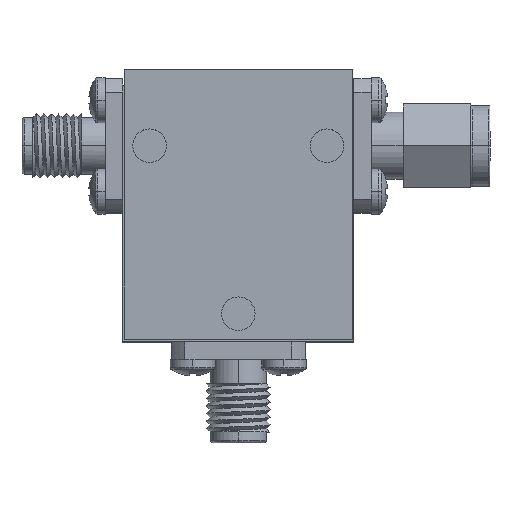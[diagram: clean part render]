
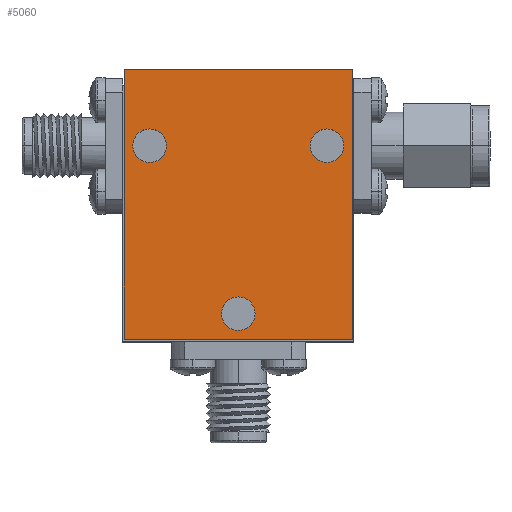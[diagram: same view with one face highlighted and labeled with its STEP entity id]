
A CAD part, top view. The second image highlights one B-rep face of the part: STEP entity #5060.
In plain terms, the highlighted planar face has unit normal (0, 0, 1).
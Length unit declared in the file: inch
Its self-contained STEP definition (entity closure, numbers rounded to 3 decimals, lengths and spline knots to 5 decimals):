
#23 = DIRECTION ( 'NONE',  ( 0., 1., 0. ) ) ;
#38 = ORIENTED_EDGE ( 'NONE', *, *, #2812, .F. ) ;
#110 = CARTESIAN_POINT ( 'NONE',  ( -0.32175, 0.6575, 0.72025 ) ) ;
#230 = FACE_BOUND ( 'NONE', #1003, .T. ) ;
#232 = VECTOR ( 'NONE', #316, 39.37008 ) ;
#305 = CIRCLE ( 'NONE', #4546, 0.0625 ) ;
#307 = EDGE_LOOP ( 'NONE', ( #4055, #3582, #1288, #4269 ) ) ;
#312 = DIRECTION ( 'NONE',  ( 0., -1., 0. ) ) ;
#316 = DIRECTION ( 'NONE',  ( -1., 0., 0. ) ) ;
#331 = AXIS2_PLACEMENT_3D ( 'NONE', #3047, #1807, #3073 ) ;
#337 = AXIS2_PLACEMENT_3D ( 'NONE', #3894, #3909, #1323 ) ;
#341 = CIRCLE ( 'NONE', #2063, 0.0625 ) ;
#343 = ORIENTED_EDGE ( 'NONE', *, *, #4748, .F. ) ;
#458 = EDGE_CURVE ( 'NONE', #3369, #3579, #341, .T. ) ;
#460 = CARTESIAN_POINT ( 'NONE',  ( -0.41675, 1.005, 0.72025 ) ) ;
#515 = DIRECTION ( 'NONE',  ( -1., 0., 0. ) ) ;
#539 = CARTESIAN_POINT ( 'NONE',  ( -0.32175, 0.7825, 0.72025 ) ) ;
#618 = VERTEX_POINT ( 'NONE', #1941 ) ;
#748 = VECTOR ( 'NONE', #515, 39.37008 ) ;
#777 = CARTESIAN_POINT ( 'NONE',  ( 0.00825, 0.1575, 0.72025 ) ) ;
#853 = CARTESIAN_POINT ( 'NONE',  ( 0.43325, 1.005, 0.72025 ) ) ;
#952 = DIRECTION ( 'NONE',  ( 0., -1., 0. ) ) ;
#1003 = EDGE_LOOP ( 'NONE', ( #1637, #2187 ) ) ;
#1039 = LINE ( 'NONE', #2293, #2811 ) ;
#1154 = CIRCLE ( 'NONE', #331, 0.0625 ) ;
#1230 = FACE_BOUND ( 'NONE', #2229, .T. ) ;
#1281 = DIRECTION ( 'NONE',  ( 0., 0., -1. ) ) ;
#1288 = ORIENTED_EDGE ( 'NONE', *, *, #1621, .F. ) ;
#1316 = CARTESIAN_POINT ( 'NONE',  ( -0.41675, 1.005, 0.72025 ) ) ;
#1323 = DIRECTION ( 'NONE',  ( 0., -1., 0. ) ) ;
#1354 = CARTESIAN_POINT ( 'NONE',  ( -0.32175, 0.72, 0.72025 ) ) ;
#1359 = FACE_BOUND ( 'NONE', #1555, .T. ) ;
#1365 = CIRCLE ( 'NONE', #337, 0.0625 ) ;
#1464 = DIRECTION ( 'NONE',  ( 0., -1., 0. ) ) ;
#1555 = EDGE_LOOP ( 'NONE', ( #343, #38 ) ) ;
#1567 = DIRECTION ( 'NONE',  ( 0., 0., 1. ) ) ;
#1621 = EDGE_CURVE ( 'NONE', #5091, #4161, #1039, .T. ) ;
#1637 = ORIENTED_EDGE ( 'NONE', *, *, #4056, .F. ) ;
#1641 = VERTEX_POINT ( 'NONE', #110 ) ;
#1649 = AXIS2_PLACEMENT_3D ( 'NONE', #1663, #3783, #2139 ) ;
#1661 = VERTEX_POINT ( 'NONE', #539 ) ;
#1663 = CARTESIAN_POINT ( 'NONE',  ( 0.33825, 0.72, 0.72025 ) ) ;
#1807 = DIRECTION ( 'NONE',  ( 0., 0., 1. ) ) ;
#1939 = EDGE_CURVE ( 'NONE', #5091, #5075, #5143, .T. ) ;
#1941 = CARTESIAN_POINT ( 'NONE',  ( 0.33825, 0.6575, 0.72025 ) ) ;
#2063 = AXIS2_PLACEMENT_3D ( 'NONE', #3828, #4691, #2584 ) ;
#2139 = DIRECTION ( 'NONE',  ( 0., -1., 0. ) ) ;
#2187 = ORIENTED_EDGE ( 'NONE', *, *, #458, .F. ) ;
#2229 = EDGE_LOOP ( 'NONE', ( #5517, #3465 ) ) ;
#2293 = CARTESIAN_POINT ( 'NONE',  ( 0.43325, 1.005, 0.72025 ) ) ;
#2584 = DIRECTION ( 'NONE',  ( 0., -1., 0. ) ) ;
#2811 = VECTOR ( 'NONE', #952, 39.37008 ) ;
#2812 = EDGE_CURVE ( 'NONE', #5551, #618, #1154, .T. ) ;
#3043 = DIRECTION ( 'NONE',  ( 0., -1., 0. ) ) ;
#3047 = CARTESIAN_POINT ( 'NONE',  ( 0.33825, 0.72, 0.72025 ) ) ;
#3073 = DIRECTION ( 'NONE',  ( 0., -1., 0. ) ) ;
#3138 = CARTESIAN_POINT ( 'NONE',  ( 0.43325, 0., 0.72025 ) ) ;
#3164 = CARTESIAN_POINT ( 'NONE',  ( 0.43325, 1.005, 0.72025 ) ) ;
#3170 = EDGE_CURVE ( 'NONE', #5075, #4847, #4511, .T. ) ;
#3218 = CARTESIAN_POINT ( 'NONE',  ( 0.33825, 0.7825, 0.72025 ) ) ;
#3336 = CIRCLE ( 'NONE', #1649, 0.0625 ) ;
#3369 = VERTEX_POINT ( 'NONE', #777 ) ;
#3397 = VECTOR ( 'NONE', #3043, 39.37008 ) ;
#3444 = PLANE ( 'NONE',  #3772 ) ;
#3465 = ORIENTED_EDGE ( 'NONE', *, *, #5188, .F. ) ;
#3579 = VERTEX_POINT ( 'NONE', #3589 ) ;
#3582 = ORIENTED_EDGE ( 'NONE', *, *, #5461, .F. ) ;
#3589 = CARTESIAN_POINT ( 'NONE',  ( 0.00825, 0.0325, 0.72025 ) ) ;
#3772 = AXIS2_PLACEMENT_3D ( 'NONE', #3877, #1281, #23 ) ;
#3778 = CARTESIAN_POINT ( 'NONE',  ( 0.43325, 0., 0.72025 ) ) ;
#3783 = DIRECTION ( 'NONE',  ( 0., 0., 1. ) ) ;
#3804 = CARTESIAN_POINT ( 'NONE',  ( -0.41675, 0., 0.72025 ) ) ;
#3828 = CARTESIAN_POINT ( 'NONE',  ( 0.00825, 0.095, 0.72025 ) ) ;
#3877 = CARTESIAN_POINT ( 'NONE',  ( 0.43325, 1.005, 0.72025 ) ) ;
#3894 = CARTESIAN_POINT ( 'NONE',  ( 0.00825, 0.095, 0.72025 ) ) ;
#3909 = DIRECTION ( 'NONE',  ( 0., 0., 1. ) ) ;
#3918 = EDGE_CURVE ( 'NONE', #1641, #1661, #5229, .T. ) ;
#3997 = DIRECTION ( 'NONE',  ( 0., 0., 1. ) ) ;
#4055 = ORIENTED_EDGE ( 'NONE', *, *, #3170, .T. ) ;
#4056 = EDGE_CURVE ( 'NONE', #3579, #3369, #1365, .T. ) ;
#4161 = VERTEX_POINT ( 'NONE', #3138 ) ;
#4269 = ORIENTED_EDGE ( 'NONE', *, *, #1939, .T. ) ;
#4511 = LINE ( 'NONE', #1316, #3397 ) ;
#4524 = FACE_OUTER_BOUND ( 'NONE', #307, .T. ) ;
#4525 = LINE ( 'NONE', #3778, #232 ) ;
#4546 = AXIS2_PLACEMENT_3D ( 'NONE', #1354, #3997, #1464 ) ;
#4691 = DIRECTION ( 'NONE',  ( 0., 0., 1. ) ) ;
#4748 = EDGE_CURVE ( 'NONE', #618, #5551, #3336, .T. ) ;
#4847 = VERTEX_POINT ( 'NONE', #3804 ) ;
#5060 = ADVANCED_FACE ( 'NONE', ( #1359, #230, #1230, #4524 ), #3444, .F. ) ;
#5075 = VERTEX_POINT ( 'NONE', #460 ) ;
#5091 = VERTEX_POINT ( 'NONE', #853 ) ;
#5143 = LINE ( 'NONE', #3164, #748 ) ;
#5188 = EDGE_CURVE ( 'NONE', #1661, #1641, #305, .T. ) ;
#5229 = CIRCLE ( 'NONE', #5286, 0.0625 ) ;
#5286 = AXIS2_PLACEMENT_3D ( 'NONE', #5457, #1567, #312 ) ;
#5457 = CARTESIAN_POINT ( 'NONE',  ( -0.32175, 0.72, 0.72025 ) ) ;
#5461 = EDGE_CURVE ( 'NONE', #4161, #4847, #4525, .T. ) ;
#5517 = ORIENTED_EDGE ( 'NONE', *, *, #3918, .F. ) ;
#5551 = VERTEX_POINT ( 'NONE', #3218 ) ;
